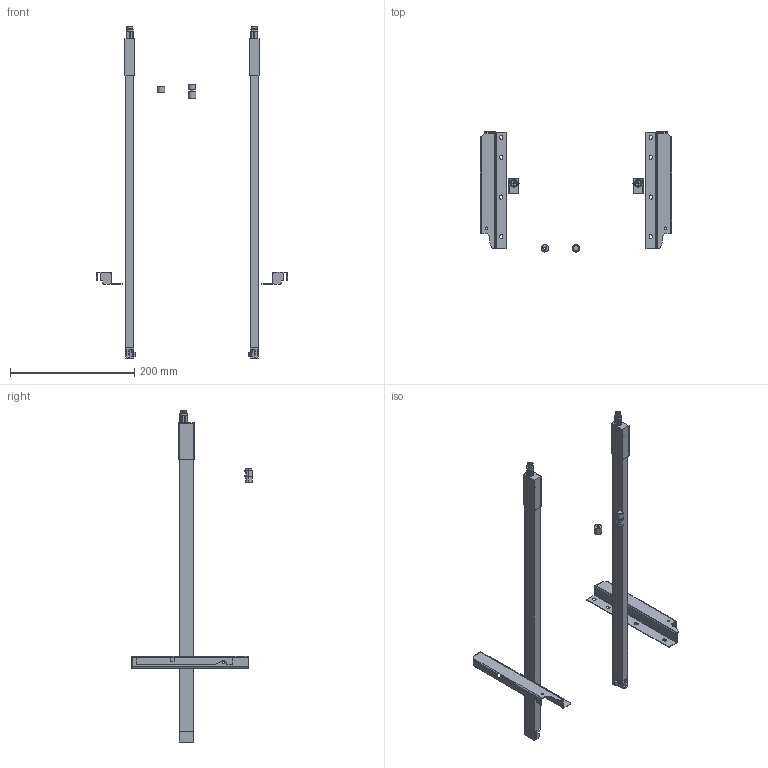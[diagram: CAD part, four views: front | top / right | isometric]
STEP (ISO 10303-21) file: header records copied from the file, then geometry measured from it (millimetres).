
FILE_DESCRIPTION (( 'STEP AP203' ), '1' );
FILE_NAME ('402631.STEP', '2026-01-27T17:24:28', ( '' ), ( '' ), 'SwSTEP 2.0', 'SolidWorks 2025', '' );
FILE_SCHEMA (( 'CONFIG_CONTROL_DESIGN' ));
Length unit declared in the file: millimetre
Products named in the file (8): horní hranatý P_Horní P 550; StrongBox ND držák zad H204 levý_246691 a 246694_3D; StrongBox ND držák zad H204 pravý_246691 a 246694_3D; StrongBox ND držák relingu čelní, hmoždinka_246795 a 246796_3D; horní hranatý L_Horní L 550; 402631; StrongBox ND držák relingu čelní, vrut_246699 a 246700_3D; StrongBox ND držák zad H204_246691 a 246694 L+P
Assembly tree (7 placements, depth 3):
  402631
    StrongBox ND držák zad H204_246691 a 246694 L+P
      StrongBox ND držák zad H204 levý_246691 a 246694_3D
      StrongBox ND držák zad H204 pravý_246691 a 246694_3D
    horní hranatý L_Horní L 550
    horní hranatý P_Horní P 550
    StrongBox ND držák relingu čelní, hmoždinka_246795 a 246796_3D
    StrongBox ND držák relingu čelní, vrut_246699 a 246700_3D
Bounding box: 307.4 x 193.7 x 534 mm (x, y, z)
Volume: 333200.3 mm3; surface area: 156821.4 mm2
Topology: 12 solids, 12 shells, 456 faces, 1206 edges, 794 vertices
Faces by surface type: plane 316, cylinder 134, cone 6
Entity records: 15022 total; most frequent: CARTESIAN_POINT 2525, DIRECTION 2436, ORIENTED_EDGE 2412, EDGE_CURVE 1206, VECTOR 890, LINE 890, VERTEX_POINT 794, AXIS2_PLACEMENT_3D 773
